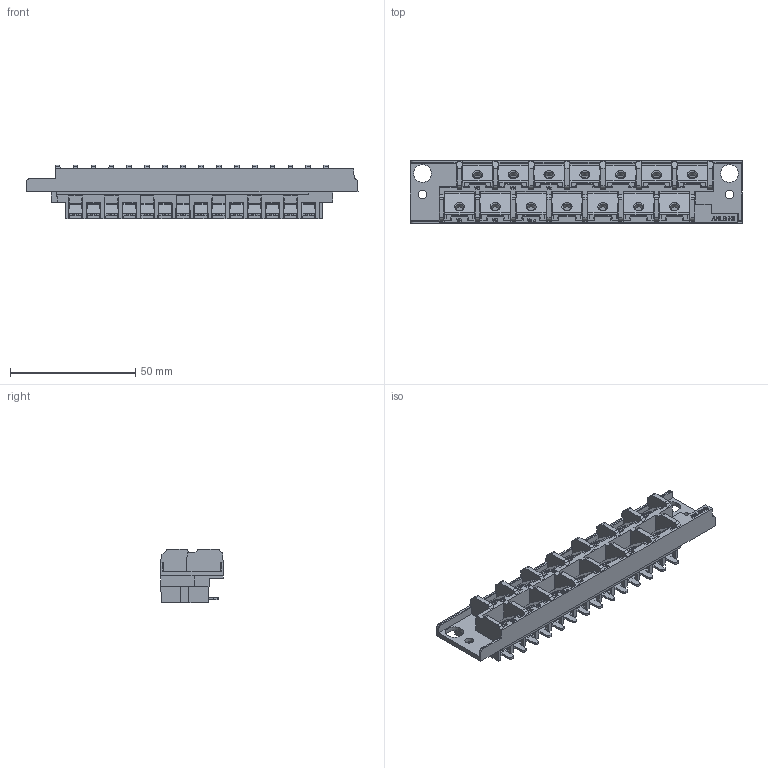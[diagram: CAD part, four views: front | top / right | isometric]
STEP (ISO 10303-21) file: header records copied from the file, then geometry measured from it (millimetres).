
FILE_DESCRIPTION(/* description */ (''),/* implementation_level */ '2;1');
FILE_NAME(/* name */ 'C:\Users\jondi\Desktop\FLEX 3D STP\X9.stp',/* time_stamp */ '2021-03-10T12:40:52-06:00',/* author */ ('jondi'),/* organization */ (''),/* preprocessor_version */ 'ST-DEVELOPER v17.2',/* originating_system */ 'Autodesk Inventor 2019',/* authorisation */ '');
FILE_SCHEMA (('AUTOMOTIVE_DESIGN { 1 0 10303 214 3 1 1 }'));
Length unit declared in the file: inch
Products named in the file (7): X9; 9579230120; 9579230001; CT Connector Housing - Dual Row; Basler CT Metal; Basler CT Metal4; 9579230012
Assembly tree (18 placements, depth 4):
  X9
    9579230120
      9579230001
        CT Connector Housing - Dual Row
      Basler CT Metal  x7
      Basler CT Metal4  x7
    9579230012
Bounding box: 132.55 x 24.98 x 21.46 mm (x, y, z)
Volume: 20011.2 mm3; surface area: 32472.8 mm2
Topology: 35 solids, 35 shells, 1754 faces, 4775 edges, 3071 vertices
Faces by surface type: plane 1370, cylinder 262, bspline 62, cone 32, torus 28
Full cylindrical faces by diameter (mm): 3.302 x14, 4.369 x14
Entity records: 35027 total; most frequent: CARTESIAN_POINT 6952, ORIENTED_EDGE 6046, DIRECTION 5318, EDGE_CURVE 3023, LINE 2584, VECTOR 2584, VERTEX_POINT 1955, AXIS2_PLACEMENT_3D 1367
